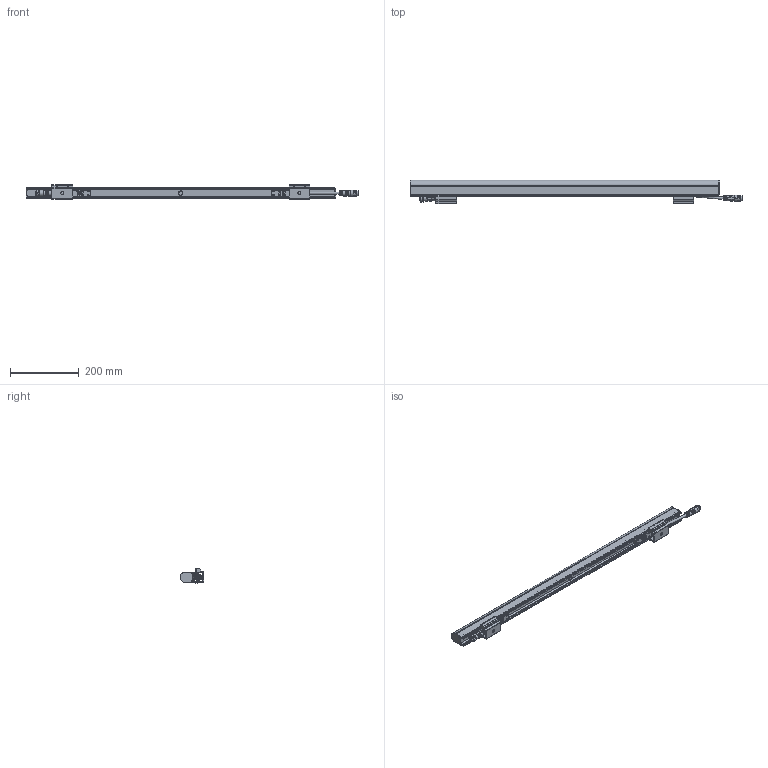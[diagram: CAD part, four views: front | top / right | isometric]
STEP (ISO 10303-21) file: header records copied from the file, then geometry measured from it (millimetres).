
FILE_DESCRIPTION (( 'STEP AP214' ), '1' );
FILE_NAME ('E series 2 Dome L900.STEP', '2025-11-24T13:35:17', ( '' ), ( '' ), 'SwSTEP 2.0', 'SolidWorks 2025', '' );
FILE_SCHEMA (( 'AUTOMOTIVE_DESIGN' ));
Length unit declared in the file: millimetre
Products named in the file (12): Counter sunk screw torx_M2.5x16; Counter sunk screw torx_M3x16; Part1^E series 2; D & E Series 2 breathing valve; E series 2 with dome cover body and bare config_900mm; Part2^E series 2; M16 5p Female; E series 2 with dome cover body and bare config_Bare 900mm; E series 2 mounting clip bottom; E series 2 Dome L900; M16 5p Male; E series 2 mounting clip top
Assembly tree (27 placements, depth 2):
  E series 2 Dome L900
    E series 2 with dome cover body and bare config_900mm
    E series 2 with dome cover body and bare config_Bare 900mm
    Counter sunk screw torx_M2.5x16  x12
    E series 2 mounting clip bottom  x2
    E series 2 mounting clip top  x2
    Counter sunk screw torx_M3x16  x4
    M16 5p Female
    Part2^E series 2
    M16 5p Male
    Part1^E series 2
    D & E Series 2 breathing valve
Bounding box: 965.7 x 68.7 x 41.7 mm (x, y, z)
Volume: 1013862.3 mm3; surface area: 233528.3 mm2
Topology: 31 solids, 34 shells, 1760 faces, 4391 edges, 2780 vertices
Faces by surface type: cylinder 734, plane 623, torus 133, bspline 130, cone 118, sphere 22
Full cylindrical faces by diameter (mm): 2.4 x2, 2.5 x12, 3 x4, 4.5 x12, 5.81 x4, 9.2 x1, 11.1 x1, 14.25 x1, 14.3 x1, 18 x1
Entity records: 61497 total; most frequent: CARTESIAN_POINT 20225, ORIENTED_EDGE 6944, DIRECTION 6526, EDGE_CURVE 3472, AXIS2_PLACEMENT_3D 2521, VERTEX_POINT 2206, EDGE_LOOP 1570, VECTOR 1484
